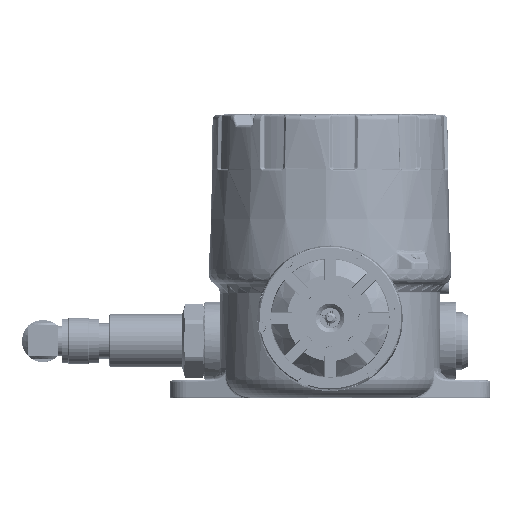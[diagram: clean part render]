
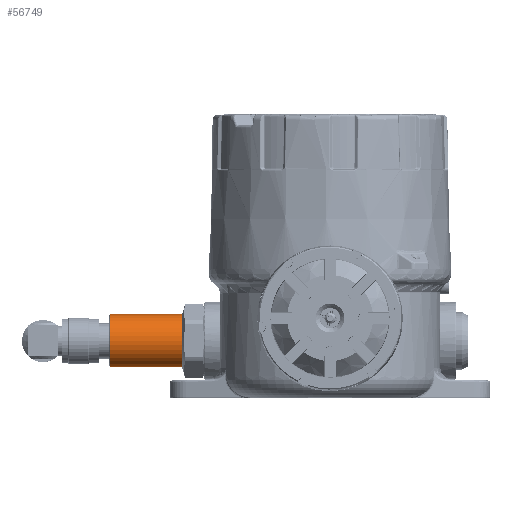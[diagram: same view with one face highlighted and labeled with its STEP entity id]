
A CAD part, top view. The second image highlights one B-rep face of the part: STEP entity #56749.
In plain terms, the highlighted cylindrical face has radius 12 mm (diameter 24 mm), a full revolution.
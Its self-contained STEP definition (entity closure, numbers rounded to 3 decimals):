
#56749=ADVANCED_FACE('',(#186376,#186378),#186380,.T.);
#186376=FACE_OUTER_BOUND('',#186377,.T.);
#186377=EDGE_LOOP('',(#238427));
#186378=FACE_OUTER_BOUND('',#186379,.T.);
#186379=EDGE_LOOP('',(#238428));
#186380=CYLINDRICAL_SURFACE('',#186381,12.);
#186381=AXIS2_PLACEMENT_3D('',#186382,#186383,#186384);
#186382=CARTESIAN_POINT('',(-67.,27.,-40.));
#186383=DIRECTION('',(-1.,0.,0.));
#186384=DIRECTION('',(0.,-1.,0.));
#238427=ORIENTED_EDGE('',*,*,#259331,.T.);
#238428=ORIENTED_EDGE('',*,*,#259329,.F.);
#259329=EDGE_CURVE('',#288246,#288246,#288247,.T.);
#259331=EDGE_CURVE('',#288250,#288250,#288251,.T.);
#288246=VERTEX_POINT('',#401190);
#288247=CIRCLE('',#401191,12.);
#288250=VERTEX_POINT('',#401200);
#288251=CIRCLE('',#401201,12.);
#401190=CARTESIAN_POINT('',(-99.5,15.,-40.));
#401191=AXIS2_PLACEMENT_3D('',#401192,#401193,#401194);
#401192=CARTESIAN_POINT('',(-99.5,27.,-40.));
#401193=DIRECTION('',(-1.,0.,0.));
#401194=DIRECTION('',(0.,-1.,0.));
#401200=CARTESIAN_POINT('',(-67.,15.,-40.));
#401201=AXIS2_PLACEMENT_3D('',#401202,#401203,#401204);
#401202=CARTESIAN_POINT('',(-67.,27.,-40.));
#401203=DIRECTION('',(-1.,0.,0.));
#401204=DIRECTION('',(0.,-1.,0.));
